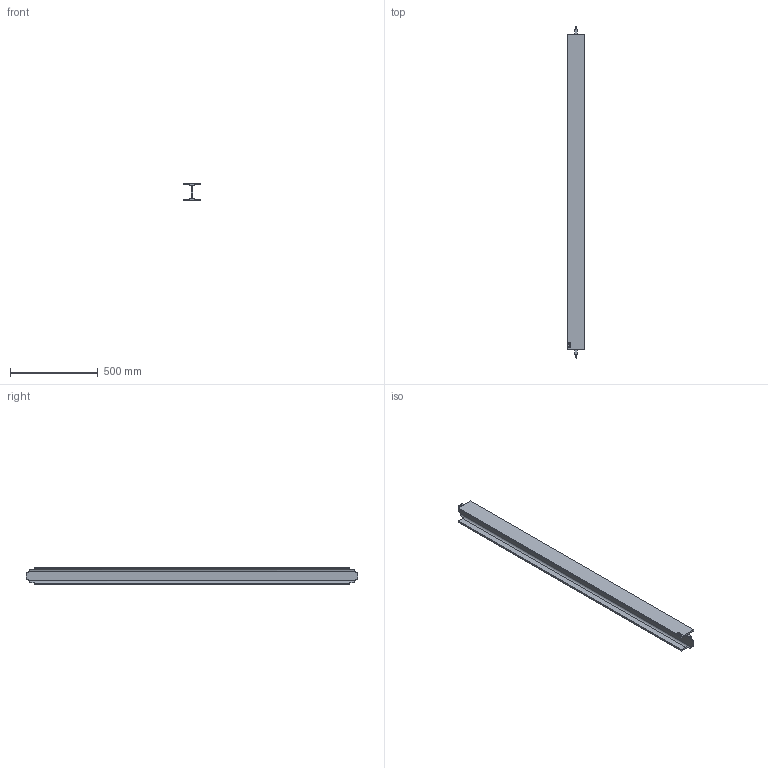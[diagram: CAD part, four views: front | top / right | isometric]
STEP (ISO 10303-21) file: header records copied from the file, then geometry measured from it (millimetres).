
FILE_DESCRIPTION (( 'STEP AP214' ), '1' );
FILE_NAME ('CCJ029-REP.048 - POUTRE INTERMEDIAIRE.STEP', '2025-02-13T08:20:45', ( '' ), ( '' ), 'SwSTEP 2.0', 'SolidWorks 2021', '' );
FILE_SCHEMA (( 'AUTOMOTIVE_DESIGN' ));
Length unit declared in the file: millimetre
Products named in the file (1): CCJ029-REP.048 - POUTRE INTERMEDIAIRE
Bounding box: 100 x 1890 x 100 mm (x, y, z)
Volume: 4714794.3 mm3; surface area: 1038620.9 mm2
Topology: 1 solids, 1 shells, 76 faces, 201 edges, 134 vertices
Faces by surface type: plane 42, bspline 26, cylinder 8
Entity records: 4135 total; most frequent: CARTESIAN_POINT 2390, ORIENTED_EDGE 402, DIRECTION 259, EDGE_CURVE 201, VERTEX_POINT 134, LINE 125, VECTOR 125, EDGE_LOOP 83
